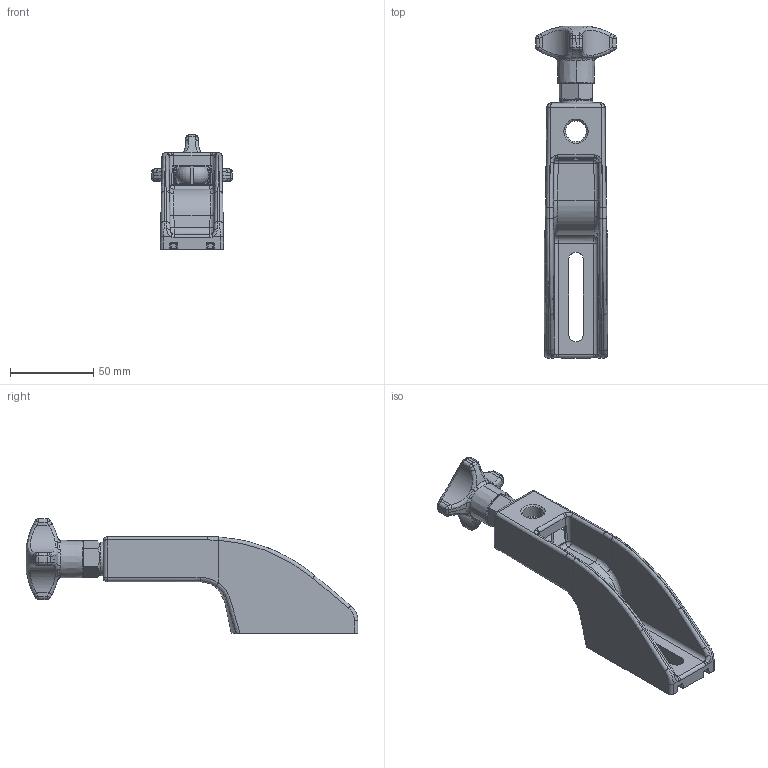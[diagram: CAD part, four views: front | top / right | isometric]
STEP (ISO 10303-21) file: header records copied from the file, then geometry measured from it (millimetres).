
FILE_DESCRIPTION (( 'STEP AP203' ), '1' );
FILE_NAME ('8110030NV.STEP', '2019-06-06T06:13:34', ( '' ), ( '' ), 'SwSTEP 2.0', 'SolidWorks 2019', '' );
FILE_SCHEMA (( 'CONFIG_CONTROL_DESIGN' ));
Length unit declared in the file: millimetre
Products named in the file (7): 8120575; 8110030NV.2_8110030NV.2; ARAND DIN 125_ARANDELA10      ; 8110030NV; EYEBOLT12_EYEBOLT12; POMO; INSERTO POMO HEMBRA(M6)
Assembly tree (6 placements, depth 3):
  8110030NV
    EYEBOLT12_EYEBOLT12
    8120575
      POMO
      INSERTO POMO HEMBRA(M6)
    8110030NV.2_8110030NV.2
    ARAND DIN 125_ARANDELA10      
Bounding box: 48.48 x 199.18 x 68.75 mm (x, y, z)
Volume: 107084.7 mm3; surface area: 44662.5 mm2
Topology: 5 solids, 5 shells, 579 faces, 1525 edges, 938 vertices
Faces by surface type: plane 258, cylinder 138, bspline 78, torus 46, sphere 32, cone 27
Entity records: 22532 total; most frequent: CARTESIAN_POINT 8434, ORIENTED_EDGE 3014, DIRECTION 2622, EDGE_CURVE 1507, AXIS2_PLACEMENT_3D 1031, VERTEX_POINT 936, EDGE_LOOP 595, FACE_OUTER_BOUND 579
